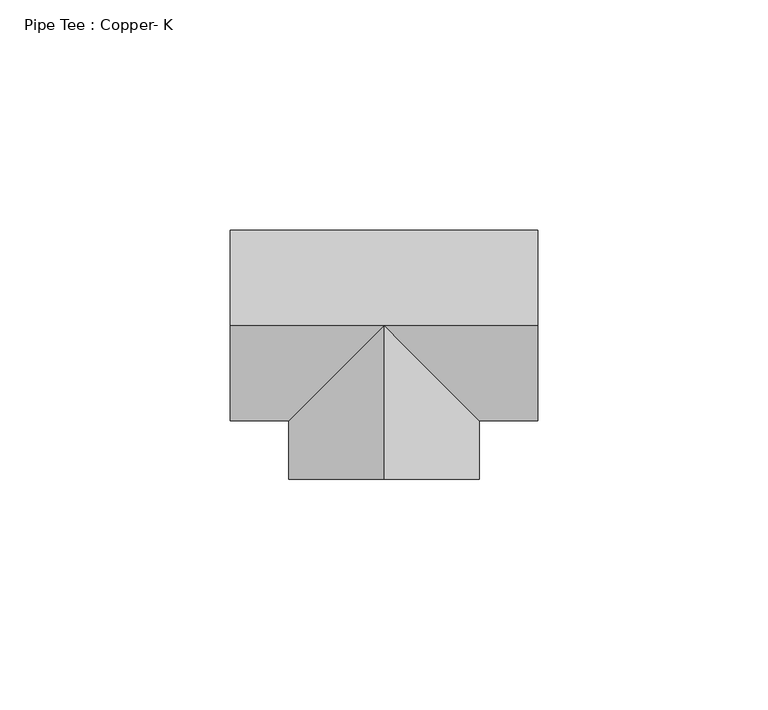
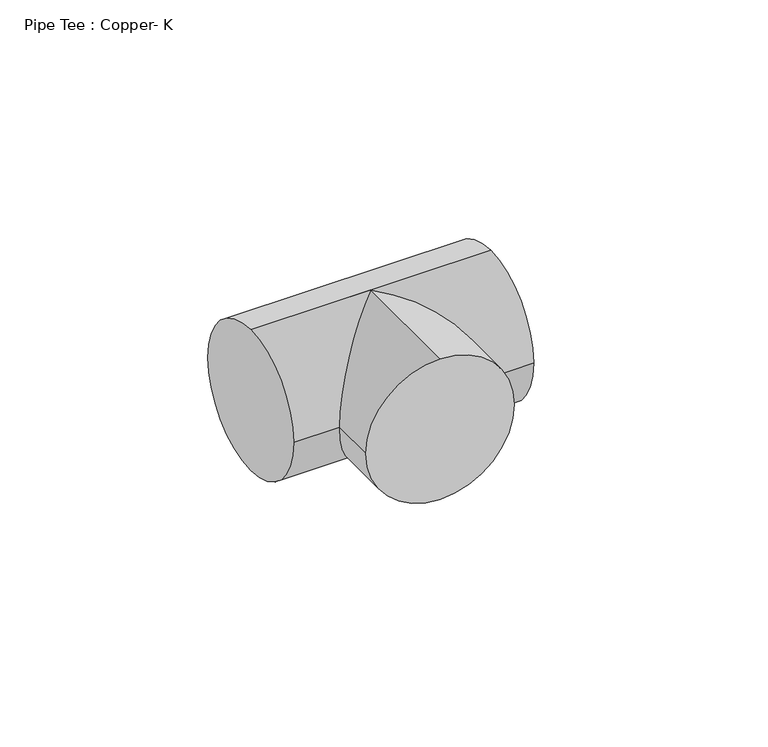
"""IFC4 building model written with IfcOpenShell, lengths in millimetres: pipe fitting geometry, Pipe Tee : Copper- K."""

from ifc_helpers import new_model, si_unit, frame, origin, place, context, project, spatial, circle_curve, ellipse_curve, source, transform, mapped, element, save
from ifc_brep_helpers import plane_surface, cylinder_surface, advanced_brep


def pipe_tee_copper_k_60c871d1(model_context):
    return source(origin(), model_context, "Body", "AdvancedBrep", [
        advanced_brep(
        [(-33.3375, 0.0, 20.6375), (-33.3375, 20.6375, 0.0), (-33.3375, 0.0, -20.6375), (-33.3375, -20.6375, 0.0), (33.3375, 0.0, 20.6375), (33.3375, -20.6375, 0.0), (33.3375, 0.0, -20.6375), (33.3375, 20.6375, 0.0), (0.0, 0.0, 20.6375), (0.0, 0.0, -20.6375), (-20.6375, -20.6375, 0.0), (20.6375, -20.6375, 0.0), (0.0, -33.3375, 20.6375), (-20.6375, -33.3375, 0.0), (0.0, -33.3375, -20.6375), (20.6375, -33.3375, 0.0)],
        [
            (0, 1, circle_curve(frame((-33.3375, 0.0, 0.0), z_axis=(-1.0, 0.0, 0.0), x_axis=(0.0, 1.0, 0.0)), 20.6375)),
            (1, 2, circle_curve(frame((-33.3375, 0.0, 0.0), z_axis=(-1.0, 0.0, 0.0), x_axis=(0.0, 1.0, 0.0)), 20.6375)),
            (2, 3, circle_curve(frame((-33.3375, 0.0, 0.0), z_axis=(-1.0, 0.0, 0.0), x_axis=(0.0, 1.0, 0.0)), 20.6375)),
            (3, 0, circle_curve(frame((-33.3375, 0.0, 0.0), z_axis=(-1.0, 0.0, 0.0), x_axis=(0.0, 1.0, 0.0)), 20.6375)),
            (4, 5, circle_curve(frame((33.3375, 0.0, 0.0), z_axis=(1.0, 0.0, 0.0), x_axis=(0.0, 1.0, 0.0)), 20.6375)),
            (5, 6, circle_curve(frame((33.3375, 0.0, 0.0), z_axis=(1.0, 0.0, 0.0), x_axis=(0.0, 1.0, 0.0)), 20.6375)),
            (6, 7, circle_curve(frame((33.3375, 0.0, 0.0), z_axis=(1.0, 0.0, 0.0), x_axis=(0.0, 1.0, 0.0)), 20.6375)),
            (7, 4, circle_curve(frame((33.3375, 0.0, 0.0), z_axis=(1.0, 0.0, 0.0), x_axis=(0.0, 1.0, 0.0)), 20.6375)),
            (0, 8),
            (8, 4),
            (7, 1),
            (6, 9),
            (9, 2),
            (9, 10, ellipse_curve(frame((0.0, 0.0, 0.0), z_axis=(-0.707106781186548, 0.7071067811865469, 0.0), x_axis=(-0.7071067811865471, -0.7071067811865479, 0.0)), 29.1858324, 20.6375)),
            (10, 3),
            (5, 11),
            (11, 9, ellipse_curve(frame((0.0, 0.0, 0.0), z_axis=(0.7071067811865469, 0.7071067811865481, 0.0), x_axis=(-0.7071067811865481, 0.7071067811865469, 0.0)), 29.1858324, 20.6375)),
            (10, 8, ellipse_curve(frame((0.0, 0.0, 0.0), z_axis=(-0.707106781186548, 0.7071067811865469, 0.0), x_axis=(-0.7071067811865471, -0.7071067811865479, 0.0)), 29.1858324, 20.6375)),
            (8, 11, ellipse_curve(frame((0.0, 0.0, 0.0), z_axis=(0.7071067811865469, 0.7071067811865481, 0.0), x_axis=(-0.7071067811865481, 0.7071067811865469, 0.0)), 29.1858324, 20.6375)),
            (12, 13, circle_curve(frame((0.0, -33.3375, 0.0), z_axis=(0.0, -1.0, 0.0), x_axis=(1.0, 0.0, 0.0)), 20.6375)),
            (13, 14, circle_curve(frame((0.0, -33.3375, 0.0), z_axis=(0.0, -1.0, 0.0), x_axis=(1.0, 0.0, 0.0)), 20.6375)),
            (14, 15, circle_curve(frame((0.0, -33.3375, 0.0), z_axis=(0.0, -1.0, 0.0), x_axis=(1.0, 0.0, 0.0)), 20.6375)),
            (15, 12, circle_curve(frame((0.0, -33.3375, 0.0), z_axis=(0.0, -1.0, 0.0), x_axis=(1.0, 0.0, 0.0)), 20.6375)),
            (15, 11),
            (8, 12),
            (14, 9),
            (13, 10),
        ],
        [
            plane_surface(frame((-33.3375, 0.0, 0.0), z_axis=(-1.0, 0.0, 0.0), x_axis=(0.0, 0.0, 1.0))),
            plane_surface(frame((33.3375, 0.0, 0.0), z_axis=(1.0, 0.0, 0.0), x_axis=(0.0, 0.0, 1.0))),
            cylinder_surface(frame((-33.3375, 0.0, 0.0), z_axis=(-1.0, 0.0, 0.0), x_axis=(0.0, 1.0, 0.0)), 20.6375),
            plane_surface(frame((0.0, -33.3375, 0.0), z_axis=(0.0, -1.0, 0.0), x_axis=(0.0, 0.0, 1.0))),
            cylinder_surface(frame((0.0, 0.0, 0.0), z_axis=(0.0, 1.0, 0.0), x_axis=(1.0, 0.0, 0.0)), 20.6375),
        ],
        [
            (0, [[1, 2, 3, 4]]),
            (1, [[5, 6, 7, 8]]),
            (2, [[-1, 9, 10, -8, 11]]),
            (2, [[-2, -11, -7, 12, 13]]),
            (2, [[-3, -13, 14, 15]]),
            (2, [[-6, 16, 17, -12]]),
            (2, [[-4, -15, 18, -9]]),
            (2, [[-5, -10, 19, -16]]),
            (3, [[20, 21, 22, 23]]),
            (4, [[-23, 24, -19, 25]]),
            (4, [[-22, 26, -17, -24]]),
            (4, [[-21, 27, -14, -26]]),
            (4, [[-20, -25, -18, -27]]),
        ],
    ),
        advanced_brep(
        [(-33.3375, 0.0, 20.6375), (-33.3375, 20.6375, 0.0), (-33.3375, 0.0, -20.6375), (-33.3375, -20.6375, 0.0), (33.3375, 0.0, 20.6375), (33.3375, -20.6375, 0.0), (33.3375, 0.0, -20.6375), (33.3375, 20.6375, 0.0), (0.0, 0.0, 20.6375), (0.0, 0.0, -20.6375), (-20.6375, -20.6375, 0.0), (20.6375, -20.6375, 0.0), (0.0, -33.3375, 20.6375), (-20.6375, -33.3375, 0.0), (0.0, -33.3375, -20.6375), (20.6375, -33.3375, 0.0)],
        [
            (0, 1, circle_curve(frame((-33.3375, 0.0, 0.0), z_axis=(-1.0, 0.0, 0.0), x_axis=(0.0, 1.0, 0.0)), 20.6375)),
            (1, 2, circle_curve(frame((-33.3375, 0.0, 0.0), z_axis=(-1.0, 0.0, 0.0), x_axis=(0.0, 1.0, 0.0)), 20.6375)),
            (2, 3, circle_curve(frame((-33.3375, 0.0, 0.0), z_axis=(-1.0, 0.0, 0.0), x_axis=(0.0, 1.0, 0.0)), 20.6375)),
            (3, 0, circle_curve(frame((-33.3375, 0.0, 0.0), z_axis=(-1.0, 0.0, 0.0), x_axis=(0.0, 1.0, 0.0)), 20.6375)),
            (4, 5, circle_curve(frame((33.3375, 0.0, 0.0), z_axis=(1.0, 0.0, 0.0), x_axis=(0.0, 1.0, 0.0)), 20.6375)),
            (5, 6, circle_curve(frame((33.3375, 0.0, 0.0), z_axis=(1.0, 0.0, 0.0), x_axis=(0.0, 1.0, 0.0)), 20.6375)),
            (6, 7, circle_curve(frame((33.3375, 0.0, 0.0), z_axis=(1.0, 0.0, 0.0), x_axis=(0.0, 1.0, 0.0)), 20.6375)),
            (7, 4, circle_curve(frame((33.3375, 0.0, 0.0), z_axis=(1.0, 0.0, 0.0), x_axis=(0.0, 1.0, 0.0)), 20.6375)),
            (0, 8),
            (8, 4),
            (7, 1),
            (6, 9),
            (9, 2),
            (9, 10, ellipse_curve(frame((0.0, 0.0, 0.0), z_axis=(-0.707106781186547, 0.7071067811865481, 0.0), x_axis=(-0.707106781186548, -0.707106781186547, 0.0)), 29.1858324, 20.6375)),
            (10, 3),
            (5, 11),
            (11, 9, ellipse_curve(frame((0.0, 0.0, 0.0), z_axis=(0.707106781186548, 0.7071067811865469, 0.0), x_axis=(-0.707106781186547, 0.707106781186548, 0.0)), 29.1858324, 20.6375)),
            (10, 8, ellipse_curve(frame((0.0, 0.0, 0.0), z_axis=(-0.707106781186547, 0.7071067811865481, 0.0), x_axis=(-0.707106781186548, -0.707106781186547, 0.0)), 29.1858324, 20.6375)),
            (8, 11, ellipse_curve(frame((0.0, 0.0, 0.0), z_axis=(0.707106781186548, 0.7071067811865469, 0.0), x_axis=(-0.707106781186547, 0.707106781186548, 0.0)), 29.1858324, 20.6375)),
            (12, 13, circle_curve(frame((0.0, -33.3375, 0.0), z_axis=(0.0, -1.0, 0.0), x_axis=(1.0, 0.0, 0.0)), 20.6375)),
            (13, 14, circle_curve(frame((0.0, -33.3375, 0.0), z_axis=(0.0, -1.0, 0.0), x_axis=(1.0, 0.0, 0.0)), 20.6375)),
            (14, 15, circle_curve(frame((0.0, -33.3375, 0.0), z_axis=(0.0, -1.0, 0.0), x_axis=(1.0, 0.0, 0.0)), 20.6375)),
            (15, 12, circle_curve(frame((0.0, -33.3375, 0.0), z_axis=(0.0, -1.0, 0.0), x_axis=(1.0, 0.0, 0.0)), 20.6375)),
            (15, 11),
            (8, 12),
            (14, 9),
            (13, 10),
        ],
        [
            plane_surface(frame((-33.3375, 0.0, 0.0), z_axis=(-1.0, 0.0, 0.0), x_axis=(0.0, 0.0, 1.0))),
            plane_surface(frame((33.3375, 0.0, 0.0), z_axis=(1.0, 0.0, 0.0), x_axis=(0.0, 0.0, 1.0))),
            cylinder_surface(frame((-33.3375, 0.0, 0.0), z_axis=(-1.0, 0.0, 0.0), x_axis=(0.0, 1.0, 0.0)), 20.6375),
            plane_surface(frame((0.0, -33.3375, 0.0), z_axis=(0.0, -1.0, 0.0), x_axis=(0.0, 0.0, 1.0))),
            cylinder_surface(frame((0.0, 0.0, 0.0), z_axis=(0.0, 1.0, 0.0), x_axis=(1.0, 0.0, 0.0)), 20.6375),
        ],
        [
            (0, [[1, 2, 3, 4]]),
            (1, [[5, 6, 7, 8]]),
            (2, [[-1, 9, 10, -8, 11]]),
            (2, [[-2, -11, -7, 12, 13]]),
            (2, [[-3, -13, 14, 15]]),
            (2, [[-6, 16, 17, -12]]),
            (2, [[-4, -15, 18, -9]]),
            (2, [[-5, -10, 19, -16]]),
            (3, [[20, 21, 22, 23]]),
            (4, [[-23, 24, -19, 25]]),
            (4, [[-22, 26, -17, -24]]),
            (4, [[-21, 27, -14, -26]]),
            (4, [[-20, -25, -18, -27]]),
        ],
    ),
    ])


if __name__ == "__main__":
    model = new_model("IFC4")
    model_context = context("Model", 3, world=origin())
    ifc_project = project(units=[si_unit("LENGTHUNIT", "METRE", prefix="MILLI")], contexts=[model_context])
    site = spatial("IfcSite", under=ifc_project)
    building = spatial("IfcBuilding", under=site)
    placement = place(None, origin())
    pipe_tee_copper_k_shape = pipe_tee_copper_k_60c871d1(model_context)
    element("IfcPipeFitting", 1, ObjectType="Pipe Tee : Copper- K", at=placement, inside=building, context=model_context, shape_type="MappedRepresentation", body=[
        mapped(pipe_tee_copper_k_shape, transform((0.0, 0.0, 0.0), x_axis=(1.0, 0.0, 0.0), y_axis=(0.0, 1.0, 0.0), z_axis=(0.0, 0.0, 1.0))),
    ])
    save(model, "model.ifc")
